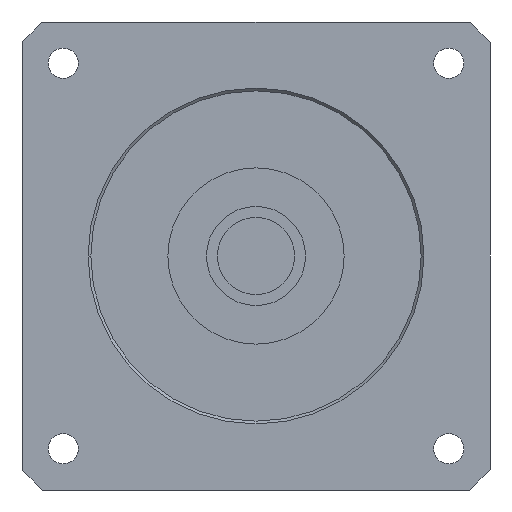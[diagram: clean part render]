
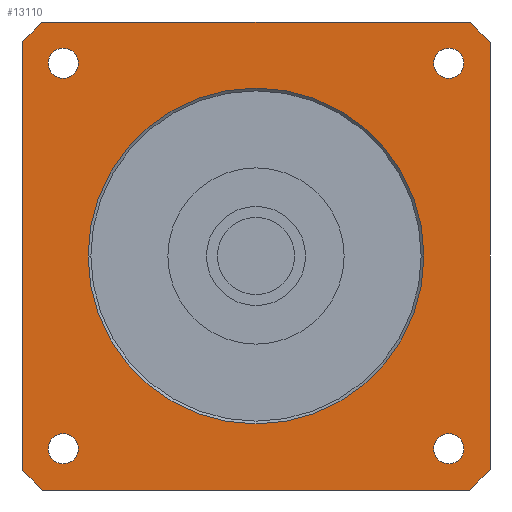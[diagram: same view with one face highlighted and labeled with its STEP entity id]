
A CAD part, left-side view. The second image highlights one B-rep face of the part: STEP entity #13110.
In plain terms, the highlighted planar face has unit normal (-1, 0, 0) as drawn and (0, 0, -1) by its records, which use the part's own axes.
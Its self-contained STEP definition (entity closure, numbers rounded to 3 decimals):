
#8680=CARTESIAN_POINT('',(32.252,35.002,-36.));
#8690=VERTEX_POINT('',#8680);
#8870=CARTESIAN_POINT('',(37.752,35.002,-36.));
#8880=VERTEX_POINT('',#8870);
#8910=CARTESIAN_POINT('',(35.002,35.002,-36.));
#8920=DIRECTION('',(0.,0.,-1.));
#8930=DIRECTION('',(1.,0.,0.));
#8940=AXIS2_PLACEMENT_3D('',#8910,#8920,#8930);
#8950=CIRCLE('',#8940,2.75);
#8960=EDGE_CURVE('',#8690,#8880,#8950,.T.);
#9100=CARTESIAN_POINT('',(-37.752,35.002,-36.));
#9110=VERTEX_POINT('',#9100);
#9290=CARTESIAN_POINT('',(-32.252,35.002,-36.));
#9300=VERTEX_POINT('',#9290);
#9330=CARTESIAN_POINT('',(-35.002,35.002,-36.));
#9340=DIRECTION('',(0.,0.,-1.));
#9350=DIRECTION('',(1.,0.,0.));
#9360=AXIS2_PLACEMENT_3D('',#9330,#9340,#9350);
#9370=CIRCLE('',#9360,2.75);
#9380=EDGE_CURVE('',#9110,#9300,#9370,.T.);
#11680=CARTESIAN_POINT('',(30.5,0.,-36.));
#11690=VERTEX_POINT('',#11680);
#11720=CARTESIAN_POINT('',(0.,0.,
-36.));
#11730=DIRECTION('',(0.,0.,1.));
#11740=DIRECTION('',(-1.,0.,0.));
#11750=AXIS2_PLACEMENT_3D('',#11720,#11730,#11740);
#11760=CIRCLE('',#11750,30.5);
#11770=CARTESIAN_POINT('',(-30.5,0.,-36.));
#11780=VERTEX_POINT('',#11770);
#11790=EDGE_CURVE('',#11690,#11780,#11760,.T.);
#11910=CARTESIAN_POINT('',(42.5,42.5,-36.));
#11920=DIRECTION('',(0.,0.,1.));
#11930=DIRECTION('',(-1.,0.,0.));
#11940=AXIS2_PLACEMENT_3D('',#11910,#11920,#11930);
#11950=PLANE('',#11940);
#11960=EDGE_CURVE('',#11780,#11690,#11760,.T.);
#11970=ORIENTED_EDGE('',*,*,#11960,.T.);
#11980=ORIENTED_EDGE('',*,*,#11790,.T.);
#11990=EDGE_LOOP('',(#11980,#11970));
#12000=FACE_BOUND('',#11990,.T.);
#12010=CARTESIAN_POINT('',(-35.002,-35.002,-36.));
#12020=DIRECTION('',(0.,0.,-1.));
#12030=DIRECTION('',(1.,0.,0.));
#12040=AXIS2_PLACEMENT_3D('',#12010,#12020,#12030);
#12050=CIRCLE('',#12040,2.75);
#12060=CARTESIAN_POINT('',(-32.252,-35.002,-36.));
#12070=VERTEX_POINT('',#12060);
#12080=CARTESIAN_POINT('',(-37.752,-35.002,-36.));
#12090=VERTEX_POINT('',#12080);
#12100=EDGE_CURVE('',#12070,#12090,#12050,.T.);
#12110=ORIENTED_EDGE('',*,*,#12100,.F.);
#12120=EDGE_CURVE('',#12090,#12070,#12050,.T.);
#12130=ORIENTED_EDGE('',*,*,#12120,.F.);
#12140=EDGE_LOOP('',(#12130,#12110));
#12150=FACE_BOUND('',#12140,.T.);
#12160=CARTESIAN_POINT('',(35.002,-35.002,-36.));
#12170=DIRECTION('',(0.,0.,-1.));
#12180=DIRECTION('',(1.,0.,0.));
#12190=AXIS2_PLACEMENT_3D('',#12160,#12170,#12180);
#12200=CIRCLE('',#12190,2.75);
#12210=CARTESIAN_POINT('',(37.752,-35.002,-36.));
#12220=VERTEX_POINT('',#12210);
#12230=CARTESIAN_POINT('',(32.252,-35.002,-36.));
#12240=VERTEX_POINT('',#12230);
#12250=EDGE_CURVE('',#12220,#12240,#12200,.T.);
#12260=ORIENTED_EDGE('',*,*,#12250,.F.);
#12270=EDGE_CURVE('',#12240,#12220,#12200,.T.);
#12280=ORIENTED_EDGE('',*,*,#12270,.F.);
#12290=EDGE_LOOP('',(#12280,#12260));
#12300=FACE_BOUND('',#12290,.T.);
#12310=EDGE_CURVE('',#8880,#8690,#8950,.T.);
#12320=ORIENTED_EDGE('',*,*,#12310,.F.);
#12330=ORIENTED_EDGE('',*,*,#8960,.F.);
#12340=EDGE_LOOP('',(#12330,#12320));
#12350=FACE_BOUND('',#12340,.T.);
#12360=EDGE_CURVE('',#9300,#9110,#9370,.T.);
#12370=ORIENTED_EDGE('',*,*,#12360,.F.);
#12380=ORIENTED_EDGE('',*,*,#9380,.F.);
#12390=EDGE_LOOP('',(#12380,#12370));
#12400=FACE_BOUND('',#12390,.T.);
#12410=CARTESIAN_POINT('',(0.,0.,
-36.));
#12420=DIRECTION('',(0.,0.,1.));
#12430=DIRECTION('',(1.,0.,0.));
#12440=AXIS2_PLACEMENT_3D('',#12410,#12420,#12430);
#12450=CIRCLE('',#12440,57.5);
#12460=CARTESIAN_POINT('',(-42.5,-38.73,-36.));
#12470=VERTEX_POINT('',#12460);
#12480=CARTESIAN_POINT('',(-38.73,-42.5,-36.));
#12490=VERTEX_POINT('',#12480);
#12500=EDGE_CURVE('',#12470,#12490,#12450,.T.);
#12510=ORIENTED_EDGE('',*,*,#12500,.F.);
#12520=CARTESIAN_POINT('',(-42.5,-42.5,-36.));
#12530=DIRECTION('',(1.,0.,0.));
#12540=VECTOR('',#12530,1000.);
#12550=LINE('',#12520,#12540);
#12560=CARTESIAN_POINT('',(38.73,-42.5,-36.));
#12570=VERTEX_POINT('',#12560);
#12580=EDGE_CURVE('',#12490,#12570,#12550,.T.);
#12590=ORIENTED_EDGE('',*,*,#12580,.F.);
#12600=CARTESIAN_POINT('',(0.,0.,
-36.));
#12610=DIRECTION('',(0.,0.,1.));
#12620=DIRECTION('',(1.,0.,0.));
#12630=AXIS2_PLACEMENT_3D('',#12600,#12610,#12620);
#12640=CIRCLE('',#12630,57.5);
#12650=CARTESIAN_POINT('',(42.5,-38.73,-36.));
#12660=VERTEX_POINT('',#12650);
#12670=EDGE_CURVE('',#12570,#12660,#12640,.T.);
#12680=ORIENTED_EDGE('',*,*,#12670,.F.);
#12690=CARTESIAN_POINT('',(42.5,-42.5,-36.));
#12700=DIRECTION('',(0.,1.,0.));
#12710=VECTOR('',#12700,1000.);
#12720=LINE('',#12690,#12710);
#12730=CARTESIAN_POINT('',(42.5,38.73,-36.));
#12740=VERTEX_POINT('',#12730);
#12750=EDGE_CURVE('',#12660,#12740,#12720,.T.);
#12760=ORIENTED_EDGE('',*,*,#12750,.F.);
#12770=CARTESIAN_POINT('',(0.,0.,
-36.));
#12780=DIRECTION('',(0.,0.,1.));
#12790=DIRECTION('',(1.,0.,0.));
#12800=AXIS2_PLACEMENT_3D('',#12770,#12780,#12790);
#12810=CIRCLE('',#12800,57.5);
#12820=CARTESIAN_POINT('',(38.73,42.5,-36.));
#12830=VERTEX_POINT('',#12820);
#12840=EDGE_CURVE('',#12740,#12830,#12810,.T.);
#12850=ORIENTED_EDGE('',*,*,#12840,.F.);
#12860=CARTESIAN_POINT('',(42.5,42.5,-36.));
#12870=DIRECTION('',(-1.,0.,0.));
#12880=VECTOR('',#12870,1000.);
#12890=LINE('',#12860,#12880);
#12900=CARTESIAN_POINT('',(-38.73,42.5,-36.));
#12910=VERTEX_POINT('',#12900);
#12920=EDGE_CURVE('',#12830,#12910,#12890,.T.);
#12930=ORIENTED_EDGE('',*,*,#12920,.F.);
#12940=CARTESIAN_POINT('',(0.,0.,
-36.));
#12950=DIRECTION('',(0.,0.,1.));
#12960=DIRECTION('',(1.,0.,0.));
#12970=AXIS2_PLACEMENT_3D('',#12940,#12950,#12960);
#12980=CIRCLE('',#12970,57.5);
#12990=CARTESIAN_POINT('',(-42.5,38.73,-36.));
#13000=VERTEX_POINT('',#12990);
#13010=EDGE_CURVE('',#12910,#13000,#12980,.T.);
#13020=ORIENTED_EDGE('',*,*,#13010,.F.);
#13030=CARTESIAN_POINT('',(-42.5,42.5,-36.));
#13040=DIRECTION('',(0.,-1.,0.));
#13050=VECTOR('',#13040,1000.);
#13060=LINE('',#13030,#13050);
#13070=EDGE_CURVE('',#13000,#12470,#13060,.T.);
#13080=ORIENTED_EDGE('',*,*,#13070,.F.);
#13090=EDGE_LOOP('',(#13080,#13020,#12930,#12850,#12760,#12680,#12590,
#12510));
#13100=FACE_OUTER_BOUND('',#13090,.T.);
#13110=ADVANCED_FACE('',(#12000,#12150,#12300,#12350,#12400,#13100),
#11950,.F.);
